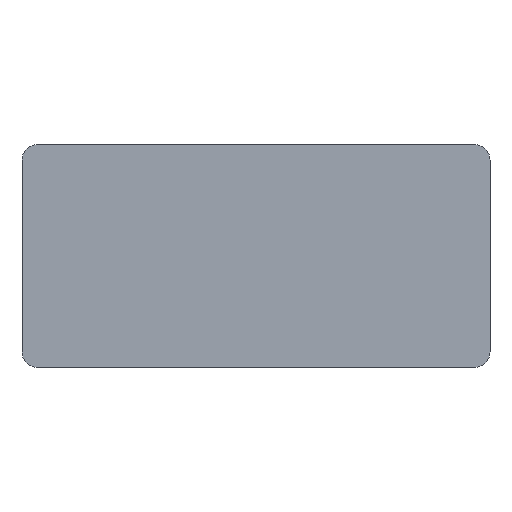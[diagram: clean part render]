
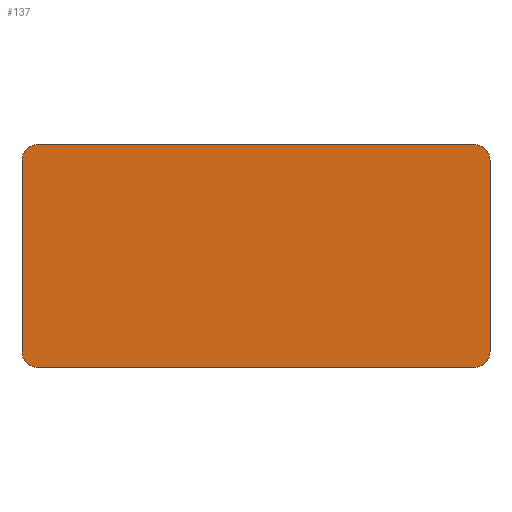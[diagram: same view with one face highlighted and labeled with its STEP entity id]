
A CAD part, front view. The second image highlights one B-rep face of the part: STEP entity #137.
In plain terms, the highlighted planar face has unit normal (0, -1, 0).
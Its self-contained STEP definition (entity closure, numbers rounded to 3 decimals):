
#21 = EDGE_CURVE('',#22,#24,#26,.T.);
#22 = VERTEX_POINT('',#23);
#23 = CARTESIAN_POINT('',(174.,-0.6,25.));
#24 = VERTEX_POINT('',#25);
#25 = CARTESIAN_POINT('',(174.,-0.6,50.));
#26 = SURFACE_CURVE('',#27,(#31,#43),.PCURVE_S1.);
#27 = LINE('',#28,#29);
#28 = CARTESIAN_POINT('',(174.,-0.6,23.));
#29 = VECTOR('',#30,1.);
#30 = DIRECTION('',(0.,0.,1.));
#31 = PCURVE('',#32,#37);
#32 = PLANE('',#33);
#33 = AXIS2_PLACEMENT_3D('',#34,#35,#36);
#34 = CARTESIAN_POINT('',(174.,-0.6,23.));
#35 = DIRECTION('',(1.,0.,0.));
#36 = DIRECTION('',(0.,0.,1.));
#37 = DEFINITIONAL_REPRESENTATION('',(#38),#42);
#38 = LINE('',#39,#40);
#39 = CARTESIAN_POINT('',(0.,0.));
#40 = VECTOR('',#41,1.);
#41 = DIRECTION('',(1.,0.));
#42 = ( GEOMETRIC_REPRESENTATION_CONTEXT(2) 
PARAMETRIC_REPRESENTATION_CONTEXT() REPRESENTATION_CONTEXT('2D SPACE',''
  ) );
#43 = PCURVE('',#44,#49);
#44 = PLANE('',#45);
#45 = AXIS2_PLACEMENT_3D('',#46,#47,#48);
#46 = CARTESIAN_POINT('',(174.,-0.6,23.));
#47 = DIRECTION('',(0.,1.,0.));
#48 = DIRECTION('',(0.,0.,1.));
#49 = DEFINITIONAL_REPRESENTATION('',(#50),#54);
#50 = LINE('',#51,#52);
#51 = CARTESIAN_POINT('',(0.,0.));
#52 = VECTOR('',#53,1.);
#53 = DIRECTION('',(1.,0.));
#54 = ( GEOMETRIC_REPRESENTATION_CONTEXT(2) 
PARAMETRIC_REPRESENTATION_CONTEXT() REPRESENTATION_CONTEXT('2D SPACE',''
  ) );
#72 = CYLINDRICAL_SURFACE('',#73,2.);
#73 = AXIS2_PLACEMENT_3D('',#74,#75,#76);
#74 = CARTESIAN_POINT('',(176.,-0.6,25.));
#75 = DIRECTION('',(0.,1.,0.));
#76 = DIRECTION('',(-1.,0.,0.));
#126 = CYLINDRICAL_SURFACE('',#127,2.);
#127 = AXIS2_PLACEMENT_3D('',#128,#129,#130);
#128 = CARTESIAN_POINT('',(176.,-0.6,50.));
#129 = DIRECTION('',(0.,1.,0.));
#130 = DIRECTION('',(-1.,0.,0.));
#137 = ADVANCED_FACE('',(#138),#44,.F.);
#138 = FACE_BOUND('',#139,.F.);
#139 = EDGE_LOOP('',(#140,#170,#196,#197,#221,#249,#282,#310));
#140 = ORIENTED_EDGE('',*,*,#141,.F.);
#141 = EDGE_CURVE('',#142,#144,#146,.T.);
#142 = VERTEX_POINT('',#143);
#143 = CARTESIAN_POINT('',(176.,-0.6,23.));
#144 = VERTEX_POINT('',#145);
#145 = CARTESIAN_POINT('',(233.,-0.6,23.));
#146 = SURFACE_CURVE('',#147,(#151,#158),.PCURVE_S1.);
#147 = LINE('',#148,#149);
#148 = CARTESIAN_POINT('',(174.,-0.6,23.));
#149 = VECTOR('',#150,1.);
#150 = DIRECTION('',(1.,0.,0.));
#151 = PCURVE('',#44,#152);
#152 = DEFINITIONAL_REPRESENTATION('',(#153),#157);
#153 = LINE('',#154,#155);
#154 = CARTESIAN_POINT('',(0.,0.));
#155 = VECTOR('',#156,1.);
#156 = DIRECTION('',(0.,1.));
#157 = ( GEOMETRIC_REPRESENTATION_CONTEXT(2) 
PARAMETRIC_REPRESENTATION_CONTEXT() REPRESENTATION_CONTEXT('2D SPACE',''
  ) );
#158 = PCURVE('',#159,#164);
#159 = PLANE('',#160);
#160 = AXIS2_PLACEMENT_3D('',#161,#162,#163);
#161 = CARTESIAN_POINT('',(174.,-0.6,23.));
#162 = DIRECTION('',(0.,0.,1.));
#163 = DIRECTION('',(1.,0.,0.));
#164 = DEFINITIONAL_REPRESENTATION('',(#165),#169);
#165 = LINE('',#166,#167);
#166 = CARTESIAN_POINT('',(0.,0.));
#167 = VECTOR('',#168,1.);
#168 = DIRECTION('',(1.,0.));
#169 = ( GEOMETRIC_REPRESENTATION_CONTEXT(2) 
PARAMETRIC_REPRESENTATION_CONTEXT() REPRESENTATION_CONTEXT('2D SPACE',''
  ) );
#170 = ORIENTED_EDGE('',*,*,#171,.F.);
#171 = EDGE_CURVE('',#22,#142,#172,.T.);
#172 = SURFACE_CURVE('',#173,(#178,#189),.PCURVE_S1.);
#173 = CIRCLE('',#174,2.);
#174 = AXIS2_PLACEMENT_3D('',#175,#176,#177);
#175 = CARTESIAN_POINT('',(176.,-0.6,25.));
#176 = DIRECTION('',(-0.,-1.,0.));
#177 = DIRECTION('',(0.,-0.,1.));
#178 = PCURVE('',#44,#179);
#179 = DEFINITIONAL_REPRESENTATION('',(#180),#188);
#180 = ( BOUNDED_CURVE() B_SPLINE_CURVE(2,(#181,#182,#183,#184,#185,#186
,#187),.UNSPECIFIED.,.T.,.F.) B_SPLINE_CURVE_WITH_KNOTS((1,2,2,2,2,1),(
    -2.094,0.,2.094,4.189,6.283,
8.378),.UNSPECIFIED.) CURVE() GEOMETRIC_REPRESENTATION_ITEM() 
RATIONAL_B_SPLINE_CURVE((1.,0.5,1.,0.5,1.,0.5,1.)) REPRESENTATION_ITEM(
  '') );
#181 = CARTESIAN_POINT('',(4.,2.));
#182 = CARTESIAN_POINT('',(4.,-1.464));
#183 = CARTESIAN_POINT('',(1.,0.268));
#184 = CARTESIAN_POINT('',(-2.,2.));
#185 = CARTESIAN_POINT('',(1.,3.732));
#186 = CARTESIAN_POINT('',(4.,5.464));
#187 = CARTESIAN_POINT('',(4.,2.));
#188 = ( GEOMETRIC_REPRESENTATION_CONTEXT(2) 
PARAMETRIC_REPRESENTATION_CONTEXT() REPRESENTATION_CONTEXT('2D SPACE',''
  ) );
#189 = PCURVE('',#72,#190);
#190 = DEFINITIONAL_REPRESENTATION('',(#191),#195);
#191 = LINE('',#192,#193);
#192 = CARTESIAN_POINT('',(1.571,-0.));
#193 = VECTOR('',#194,1.);
#194 = DIRECTION('',(-1.,0.));
#195 = ( GEOMETRIC_REPRESENTATION_CONTEXT(2) 
PARAMETRIC_REPRESENTATION_CONTEXT() REPRESENTATION_CONTEXT('2D SPACE',''
  ) );
#196 = ORIENTED_EDGE('',*,*,#21,.T.);
#197 = ORIENTED_EDGE('',*,*,#198,.T.);
#198 = EDGE_CURVE('',#24,#199,#201,.T.);
#199 = VERTEX_POINT('',#200);
#200 = CARTESIAN_POINT('',(176.,-0.6,52.));
#201 = SURFACE_CURVE('',#202,(#207,#214),.PCURVE_S1.);
#202 = CIRCLE('',#203,2.);
#203 = AXIS2_PLACEMENT_3D('',#204,#205,#206);
#204 = CARTESIAN_POINT('',(176.,-0.6,50.));
#205 = DIRECTION('',(0.,1.,0.));
#206 = DIRECTION('',(0.,-0.,1.));
#207 = PCURVE('',#44,#208);
#208 = DEFINITIONAL_REPRESENTATION('',(#209),#213);
#209 = CIRCLE('',#210,2.);
#210 = AXIS2_PLACEMENT_2D('',#211,#212);
#211 = CARTESIAN_POINT('',(27.,2.));
#212 = DIRECTION('',(1.,0.));
#213 = ( GEOMETRIC_REPRESENTATION_CONTEXT(2) 
PARAMETRIC_REPRESENTATION_CONTEXT() REPRESENTATION_CONTEXT('2D SPACE',''
  ) );
#214 = PCURVE('',#126,#215);
#215 = DEFINITIONAL_REPRESENTATION('',(#216),#220);
#216 = LINE('',#217,#218);
#217 = CARTESIAN_POINT('',(-4.712,0.));
#218 = VECTOR('',#219,1.);
#219 = DIRECTION('',(1.,0.));
#220 = ( GEOMETRIC_REPRESENTATION_CONTEXT(2) 
PARAMETRIC_REPRESENTATION_CONTEXT() REPRESENTATION_CONTEXT('2D SPACE',''
  ) );
#221 = ORIENTED_EDGE('',*,*,#222,.T.);
#222 = EDGE_CURVE('',#199,#223,#225,.T.);
#223 = VERTEX_POINT('',#224);
#224 = CARTESIAN_POINT('',(233.,-0.6,52.));
#225 = SURFACE_CURVE('',#226,(#230,#237),.PCURVE_S1.);
#226 = LINE('',#227,#228);
#227 = CARTESIAN_POINT('',(174.,-0.6,52.));
#228 = VECTOR('',#229,1.);
#229 = DIRECTION('',(1.,0.,0.));
#230 = PCURVE('',#44,#231);
#231 = DEFINITIONAL_REPRESENTATION('',(#232),#236);
#232 = LINE('',#233,#234);
#233 = CARTESIAN_POINT('',(29.,0.));
#234 = VECTOR('',#235,1.);
#235 = DIRECTION('',(0.,1.));
#236 = ( GEOMETRIC_REPRESENTATION_CONTEXT(2) 
PARAMETRIC_REPRESENTATION_CONTEXT() REPRESENTATION_CONTEXT('2D SPACE',''
  ) );
#237 = PCURVE('',#238,#243);
#238 = PLANE('',#239);
#239 = AXIS2_PLACEMENT_3D('',#240,#241,#242);
#240 = CARTESIAN_POINT('',(174.,-0.6,52.));
#241 = DIRECTION('',(0.,0.,1.));
#242 = DIRECTION('',(1.,0.,0.));
#243 = DEFINITIONAL_REPRESENTATION('',(#244),#248);
#244 = LINE('',#245,#246);
#245 = CARTESIAN_POINT('',(0.,0.));
#246 = VECTOR('',#247,1.);
#247 = DIRECTION('',(1.,0.));
#248 = ( GEOMETRIC_REPRESENTATION_CONTEXT(2) 
PARAMETRIC_REPRESENTATION_CONTEXT() REPRESENTATION_CONTEXT('2D SPACE',''
  ) );
#249 = ORIENTED_EDGE('',*,*,#250,.F.);
#250 = EDGE_CURVE('',#251,#223,#253,.T.);
#251 = VERTEX_POINT('',#252);
#252 = CARTESIAN_POINT('',(235.,-0.6,50.));
#253 = SURFACE_CURVE('',#254,(#259,#270),.PCURVE_S1.);
#254 = CIRCLE('',#255,2.);
#255 = AXIS2_PLACEMENT_3D('',#256,#257,#258);
#256 = CARTESIAN_POINT('',(233.,-0.6,50.));
#257 = DIRECTION('',(-0.,-1.,0.));
#258 = DIRECTION('',(0.,-0.,1.));
#259 = PCURVE('',#44,#260);
#260 = DEFINITIONAL_REPRESENTATION('',(#261),#269);
#261 = ( BOUNDED_CURVE() B_SPLINE_CURVE(2,(#262,#263,#264,#265,#266,#267
,#268),.UNSPECIFIED.,.T.,.F.) B_SPLINE_CURVE_WITH_KNOTS((1,2,2,2,2,1),(
    -2.094,0.,2.094,4.189,6.283,
8.378),.UNSPECIFIED.) CURVE() GEOMETRIC_REPRESENTATION_ITEM() 
RATIONAL_B_SPLINE_CURVE((1.,0.5,1.,0.5,1.,0.5,1.)) REPRESENTATION_ITEM(
  '') );
#262 = CARTESIAN_POINT('',(29.,59.));
#263 = CARTESIAN_POINT('',(29.,55.536));
#264 = CARTESIAN_POINT('',(26.,57.268));
#265 = CARTESIAN_POINT('',(23.,59.));
#266 = CARTESIAN_POINT('',(26.,60.732));
#267 = CARTESIAN_POINT('',(29.,62.464));
#268 = CARTESIAN_POINT('',(29.,59.));
#269 = ( GEOMETRIC_REPRESENTATION_CONTEXT(2) 
PARAMETRIC_REPRESENTATION_CONTEXT() REPRESENTATION_CONTEXT('2D SPACE',''
  ) );
#270 = PCURVE('',#271,#276);
#271 = CYLINDRICAL_SURFACE('',#272,2.);
#272 = AXIS2_PLACEMENT_3D('',#273,#274,#275);
#273 = CARTESIAN_POINT('',(233.,-0.6,50.));
#274 = DIRECTION('',(0.,1.,0.));
#275 = DIRECTION('',(1.,0.,-0.));
#276 = DEFINITIONAL_REPRESENTATION('',(#277),#281);
#277 = LINE('',#278,#279);
#278 = CARTESIAN_POINT('',(4.712,-0.));
#279 = VECTOR('',#280,1.);
#280 = DIRECTION('',(-1.,0.));
#281 = ( GEOMETRIC_REPRESENTATION_CONTEXT(2) 
PARAMETRIC_REPRESENTATION_CONTEXT() REPRESENTATION_CONTEXT('2D SPACE',''
  ) );
#282 = ORIENTED_EDGE('',*,*,#283,.F.);
#283 = EDGE_CURVE('',#284,#251,#286,.T.);
#284 = VERTEX_POINT('',#285);
#285 = CARTESIAN_POINT('',(235.,-0.6,25.));
#286 = SURFACE_CURVE('',#287,(#291,#298),.PCURVE_S1.);
#287 = LINE('',#288,#289);
#288 = CARTESIAN_POINT('',(235.,-0.6,23.));
#289 = VECTOR('',#290,1.);
#290 = DIRECTION('',(0.,0.,1.));
#291 = PCURVE('',#44,#292);
#292 = DEFINITIONAL_REPRESENTATION('',(#293),#297);
#293 = LINE('',#294,#295);
#294 = CARTESIAN_POINT('',(0.,61.));
#295 = VECTOR('',#296,1.);
#296 = DIRECTION('',(1.,0.));
#297 = ( GEOMETRIC_REPRESENTATION_CONTEXT(2) 
PARAMETRIC_REPRESENTATION_CONTEXT() REPRESENTATION_CONTEXT('2D SPACE',''
  ) );
#298 = PCURVE('',#299,#304);
#299 = PLANE('',#300);
#300 = AXIS2_PLACEMENT_3D('',#301,#302,#303);
#301 = CARTESIAN_POINT('',(235.,-0.6,23.));
#302 = DIRECTION('',(1.,0.,0.));
#303 = DIRECTION('',(0.,0.,1.));
#304 = DEFINITIONAL_REPRESENTATION('',(#305),#309);
#305 = LINE('',#306,#307);
#306 = CARTESIAN_POINT('',(0.,0.));
#307 = VECTOR('',#308,1.);
#308 = DIRECTION('',(1.,0.));
#309 = ( GEOMETRIC_REPRESENTATION_CONTEXT(2) 
PARAMETRIC_REPRESENTATION_CONTEXT() REPRESENTATION_CONTEXT('2D SPACE',''
  ) );
#310 = ORIENTED_EDGE('',*,*,#311,.T.);
#311 = EDGE_CURVE('',#284,#144,#312,.T.);
#312 = SURFACE_CURVE('',#313,(#318,#325),.PCURVE_S1.);
#313 = CIRCLE('',#314,2.);
#314 = AXIS2_PLACEMENT_3D('',#315,#316,#317);
#315 = CARTESIAN_POINT('',(233.,-0.6,25.));
#316 = DIRECTION('',(0.,1.,0.));
#317 = DIRECTION('',(0.,-0.,1.));
#318 = PCURVE('',#44,#319);
#319 = DEFINITIONAL_REPRESENTATION('',(#320),#324);
#320 = CIRCLE('',#321,2.);
#321 = AXIS2_PLACEMENT_2D('',#322,#323);
#322 = CARTESIAN_POINT('',(2.,59.));
#323 = DIRECTION('',(1.,0.));
#324 = ( GEOMETRIC_REPRESENTATION_CONTEXT(2) 
PARAMETRIC_REPRESENTATION_CONTEXT() REPRESENTATION_CONTEXT('2D SPACE',''
  ) );
#325 = PCURVE('',#326,#331);
#326 = CYLINDRICAL_SURFACE('',#327,2.);
#327 = AXIS2_PLACEMENT_3D('',#328,#329,#330);
#328 = CARTESIAN_POINT('',(233.,-0.6,25.));
#329 = DIRECTION('',(0.,1.,0.));
#330 = DIRECTION('',(1.,0.,-0.));
#331 = DEFINITIONAL_REPRESENTATION('',(#332),#336);
#332 = LINE('',#333,#334);
#333 = CARTESIAN_POINT('',(-1.571,0.));
#334 = VECTOR('',#335,1.);
#335 = DIRECTION('',(1.,0.));
#336 = ( GEOMETRIC_REPRESENTATION_CONTEXT(2) 
PARAMETRIC_REPRESENTATION_CONTEXT() REPRESENTATION_CONTEXT('2D SPACE',''
  ) );
